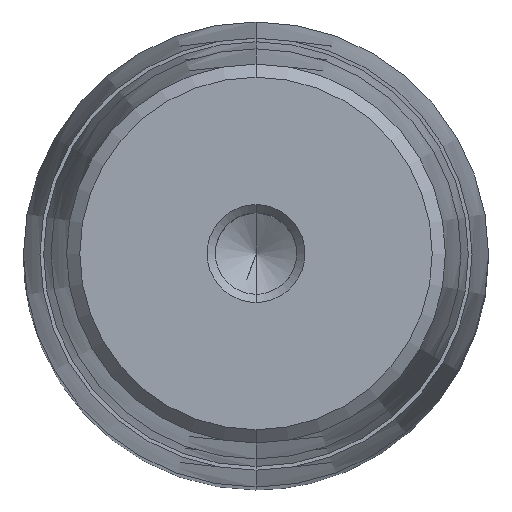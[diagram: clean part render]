
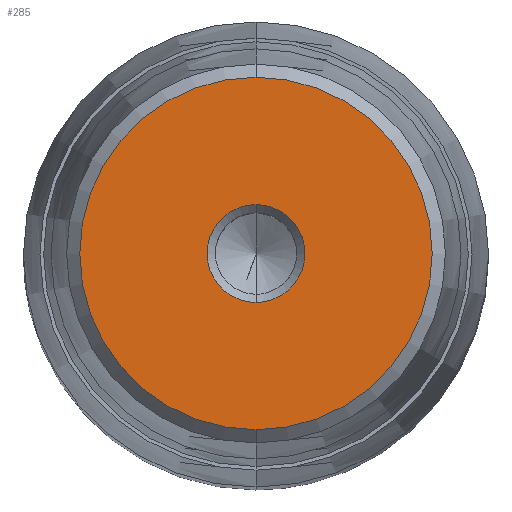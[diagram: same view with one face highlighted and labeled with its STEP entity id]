
A CAD part, top view. The second image highlights one B-rep face of the part: STEP entity #285.
In plain terms, the highlighted planar face has unit normal (0, 0, 1).
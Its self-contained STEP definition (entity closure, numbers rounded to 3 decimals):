
#164=CARTESIAN_POINT('Axis2P3D Location',(0.,0.,48.)) ;
#168=CARTESIAN_POINT('Vertex',(4.,0.,48.)) ;
#170=CARTESIAN_POINT('Vertex',(0.,-4.,48.)) ;
#173=CARTESIAN_POINT('Axis2P3D Location',(0.,0.,48.)) ;
#177=CARTESIAN_POINT('Vertex',(0.,4.,48.)) ;
#228=CARTESIAN_POINT('Axis2P3D Location',(0.,4.,48.)) ;
#233=CARTESIAN_POINT('Axis2P3D Location',(0.,0.,48.)) ;
#237=CARTESIAN_POINT('Vertex',(0.,14.4,48.)) ;
#239=CARTESIAN_POINT('Vertex',(14.4,0.,48.)) ;
#242=CARTESIAN_POINT('Axis2P3D Location',(0.,0.,48.)) ;
#246=CARTESIAN_POINT('Vertex',(-14.4,0.,48.)) ;
#249=CARTESIAN_POINT('Axis2P3D Location',(0.,0.,48.)) ;
#253=CARTESIAN_POINT('Vertex',(0.,-14.4,48.)) ;
#256=CARTESIAN_POINT('Axis2P3D Location',(0.,0.,48.)) ;
#267=CARTESIAN_POINT('Axis2P3D Location',(0.,0.,48.)) ;
#271=CARTESIAN_POINT('Vertex',(-4.,0.,48.)) ;
#274=CARTESIAN_POINT('Axis2P3D Location',(0.,0.,48.)) ;
#165=DIRECTION('Axis2P3D Direction',(-0.,0.,1.)) ;
#174=DIRECTION('Axis2P3D Direction',(-0.,0.,1.)) ;
#229=DIRECTION('Axis2P3D Direction',(0.,0.,-1.)) ;
#230=DIRECTION('Axis2P3D XDirection',(0.,1.,0.)) ;
#234=DIRECTION('Axis2P3D Direction',(0.,0.,-1.)) ;
#243=DIRECTION('Axis2P3D Direction',(0.,0.,-1.)) ;
#250=DIRECTION('Axis2P3D Direction',(0.,0.,-1.)) ;
#257=DIRECTION('Axis2P3D Direction',(0.,0.,-1.)) ;
#268=DIRECTION('Axis2P3D Direction',(0.,0.,-1.)) ;
#275=DIRECTION('Axis2P3D Direction',(0.,0.,-1.)) ;
#166=AXIS2_PLACEMENT_3D('Circle Axis2P3D',#164,#165,$) ;
#175=AXIS2_PLACEMENT_3D('Circle Axis2P3D',#173,#174,$) ;
#231=AXIS2_PLACEMENT_3D('Plane Axis2P3D',#228,#229,#230) ;
#235=AXIS2_PLACEMENT_3D('Circle Axis2P3D',#233,#234,$) ;
#244=AXIS2_PLACEMENT_3D('Circle Axis2P3D',#242,#243,$) ;
#251=AXIS2_PLACEMENT_3D('Circle Axis2P3D',#249,#250,$) ;
#258=AXIS2_PLACEMENT_3D('Circle Axis2P3D',#256,#257,$) ;
#269=AXIS2_PLACEMENT_3D('Circle Axis2P3D',#267,#268,$) ;
#276=AXIS2_PLACEMENT_3D('Circle Axis2P3D',#274,#275,$) ;
#262=ORIENTED_EDGE('',*,*,#241,.F.) ;
#263=ORIENTED_EDGE('',*,*,#248,.F.) ;
#264=ORIENTED_EDGE('',*,*,#255,.F.) ;
#265=ORIENTED_EDGE('',*,*,#260,.F.) ;
#280=ORIENTED_EDGE('',*,*,#172,.T.) ;
#281=ORIENTED_EDGE('',*,*,#273,.T.) ;
#282=ORIENTED_EDGE('',*,*,#278,.T.) ;
#283=ORIENTED_EDGE('',*,*,#179,.T.) ;
#284=FACE_BOUND('',#279,.T.) ;
#285=ADVANCED_FACE('722-38x160x193',(#266,#284),#232,.F.) ;
#167=CIRCLE('generated circle',#166,4.) ;
#176=CIRCLE('generated circle',#175,4.) ;
#236=CIRCLE('generated circle',#235,14.4) ;
#245=CIRCLE('generated circle',#244,14.4) ;
#252=CIRCLE('generated circle',#251,14.4) ;
#259=CIRCLE('generated circle',#258,14.4) ;
#270=CIRCLE('generated circle',#269,4.) ;
#277=CIRCLE('generated circle',#276,4.) ;
#172=EDGE_CURVE('',#169,#171,#167,.F.) ;
#179=EDGE_CURVE('',#178,#169,#176,.F.) ;
#241=EDGE_CURVE('',#238,#240,#236,.T.) ;
#248=EDGE_CURVE('',#247,#238,#245,.T.) ;
#255=EDGE_CURVE('',#254,#247,#252,.T.) ;
#260=EDGE_CURVE('',#240,#254,#259,.T.) ;
#273=EDGE_CURVE('',#171,#272,#270,.T.) ;
#278=EDGE_CURVE('',#272,#178,#277,.T.) ;
#261=EDGE_LOOP('',(#262,#263,#264,#265)) ;
#279=EDGE_LOOP('',(#280,#281,#282,#283)) ;
#266=FACE_OUTER_BOUND('',#261,.T.) ;
#232=PLANE('Plane',#231) ;
#169=VERTEX_POINT('',#168) ;
#171=VERTEX_POINT('',#170) ;
#178=VERTEX_POINT('',#177) ;
#238=VERTEX_POINT('',#237) ;
#240=VERTEX_POINT('',#239) ;
#247=VERTEX_POINT('',#246) ;
#254=VERTEX_POINT('',#253) ;
#272=VERTEX_POINT('',#271) ;
